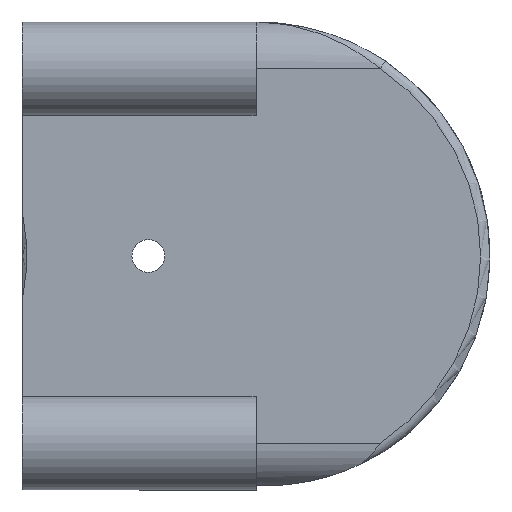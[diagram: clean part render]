
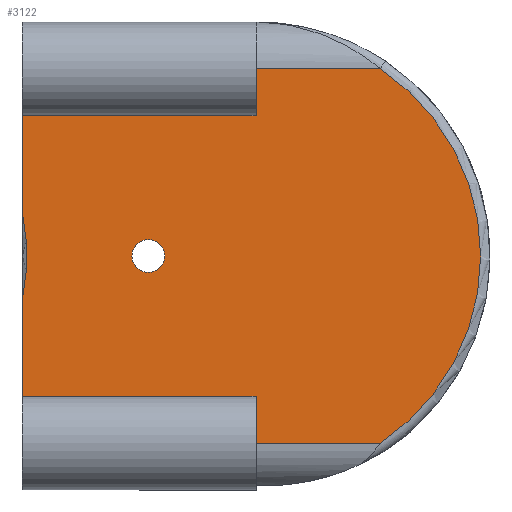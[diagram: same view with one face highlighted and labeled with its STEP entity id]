
A CAD part, left-side view. The second image highlights one B-rep face of the part: STEP entity #3122.
In plain terms, the highlighted planar face has unit normal (-1, 0, 0).
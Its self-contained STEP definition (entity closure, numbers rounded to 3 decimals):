
#214=CARTESIAN_POINT('',(0.,16.382,40.));
#215=VERTEX_POINT('',#214);
#232=CARTESIAN_POINT('',(0.,41.382,40.));
#233=VERTEX_POINT('',#232);
#240=CARTESIAN_POINT('',(0.,16.382,40.));
#241=DIRECTION('',(0.0,1.0,0.0));
#242=VECTOR('',#241,25.0);
#243=LINE('',#240,#242);
#244=EDGE_CURVE('',#215,#233,#243,.T.);
#288=CARTESIAN_POINT('',(0.,16.382,45.));
#289=VERTEX_POINT('',#288);
#290=CARTESIAN_POINT('',(0.,16.382,45.));
#291=DIRECTION('',(0.0,0.0,-1.0));
#292=VECTOR('',#291,5.0);
#293=LINE('',#290,#292);
#294=EDGE_CURVE('',#289,#215,#293,.T.);
#457=CARTESIAN_POINT('',(0.,16.382,10.));
#458=VERTEX_POINT('',#457);
#465=CARTESIAN_POINT('',(0.,41.382,10.));
#466=VERTEX_POINT('',#465);
#467=CARTESIAN_POINT('',(0.,41.382,10.));
#468=DIRECTION('',(0.0,-1.0,0.0));
#469=VECTOR('',#468,25.);
#470=LINE('',#467,#469);
#471=EDGE_CURVE('',#466,#458,#470,.T.);
#495=CARTESIAN_POINT('',(0.,16.382,5.));
#496=VERTEX_POINT('',#495);
#504=CARTESIAN_POINT('',(0.,16.382,10.));
#505=DIRECTION('',(0.0,0.0,-1.0));
#506=VECTOR('',#505,5.);
#507=LINE('',#504,#506);
#508=EDGE_CURVE('',#458,#496,#507,.T.);
#742=CARTESIAN_POINT('',(0.,3.115,5.0));
#743=VERTEX_POINT('',#742);
#760=CARTESIAN_POINT('',(0.,3.115,5.0));
#761=DIRECTION('',(0.0,1.0,0.0));
#762=VECTOR('',#761,13.266);
#763=LINE('',#760,#762);
#764=EDGE_CURVE('',#743,#496,#763,.T.);
#816=CARTESIAN_POINT('',(0.,41.382,19.975));
#817=VERTEX_POINT('',#816);
#818=CARTESIAN_POINT('',(0.,41.382,19.975));
#819=DIRECTION('',(0.0,0.0,-1.0));
#820=VECTOR('',#819,9.975);
#821=LINE('',#818,#820);
#822=EDGE_CURVE('',#817,#466,#821,.T.);
#836=CARTESIAN_POINT('',(0.,41.382,30.025));
#837=VERTEX_POINT('',#836);
#848=CARTESIAN_POINT('',(0.,41.382,40.));
#849=DIRECTION('',(0.0,0.0,-1.0));
#850=VECTOR('',#849,9.975);
#851=LINE('',#848,#850);
#852=EDGE_CURVE('',#233,#837,#851,.T.);
#2784=CARTESIAN_POINT('',(0.,27.882,26.75));
#2785=VERTEX_POINT('',#2784);
#2786=CARTESIAN_POINT('',(0.,27.882,25.));
#2787=DIRECTION('',(1.0,0.0,0.0));
#2788=DIRECTION('',(0.0,0.0,-1.0));
#2789=AXIS2_PLACEMENT_3D('',#2786,#2787,#2788);
#2790=CIRCLE('',#2789,1.75);
#2791=EDGE_CURVE('',#2785,#2785,#2790,.T.);
#2802=CARTESIAN_POINT('',(0.,66.382,25.));
#2803=DIRECTION('',(-1.,0.,0.));
#2804=DIRECTION('',(0.,-1.,0.028));
#2805=AXIS2_PLACEMENT_3D('',#2802,#2803,#2804);
#2806=CIRCLE('',#2805,25.5);
#2807=EDGE_CURVE('',#817,#837,#2806,.T.);
#3028=CARTESIAN_POINT('',(0.,3.115,45.));
#3029=VERTEX_POINT('',#3028);
#3075=CARTESIAN_POINT('',(0.,16.382,25.));
#3076=DIRECTION('',(1.,0.,0.));
#3077=DIRECTION('',(0.,-0.999,0.039));
#3078=AXIS2_PLACEMENT_3D('',#3075,#3076,#3077);
#3079=CIRCLE('',#3078,24.);
#3080=EDGE_CURVE('',#3029,#743,#3079,.T.);
#3092=CARTESIAN_POINT('',(0.,16.382,45.));
#3093=DIRECTION('',(0.,-1.0,0.));
#3094=VECTOR('',#3093,13.266);
#3095=LINE('',#3092,#3094);
#3096=EDGE_CURVE('',#289,#3029,#3095,.T.);
#3102=CARTESIAN_POINT('',(0.,-8.618,50.));
#3103=DIRECTION('',(-1.0,0.0,0.0));
#3104=DIRECTION('',(0.0,-1.0,0.0));
#3105=AXIS2_PLACEMENT_3D('',#3102,#3103,#3104);
#3106=PLANE('',#3105);
#3107=ORIENTED_EDGE('',*,*,#244,.T.);
#3108=ORIENTED_EDGE('',*,*,#852,.T.);
#3109=ORIENTED_EDGE('',*,*,#2807,.F.);
#3110=ORIENTED_EDGE('',*,*,#822,.T.);
#3111=ORIENTED_EDGE('',*,*,#471,.T.);
#3112=ORIENTED_EDGE('',*,*,#508,.T.);
#3113=ORIENTED_EDGE('',*,*,#764,.F.);
#3114=ORIENTED_EDGE('',*,*,#3080,.F.);
#3115=ORIENTED_EDGE('',*,*,#3096,.F.);
#3116=ORIENTED_EDGE('',*,*,#294,.T.);
#3117=EDGE_LOOP('',(#3107,#3108,#3109,#3110,#3111,#3112,#3113,#3114,#3115,#3116));
#3118=FACE_OUTER_BOUND('',#3117,.T.);
#3119=ORIENTED_EDGE('',*,*,#2791,.T.);
#3120=EDGE_LOOP('',(#3119));
#3121=FACE_BOUND('',#3120,.T.);
#3122=ADVANCED_FACE('',(#3118,#3121),#3106,.T.);
